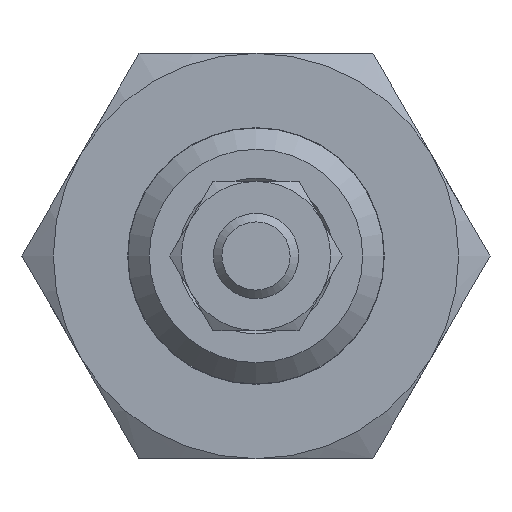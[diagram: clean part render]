
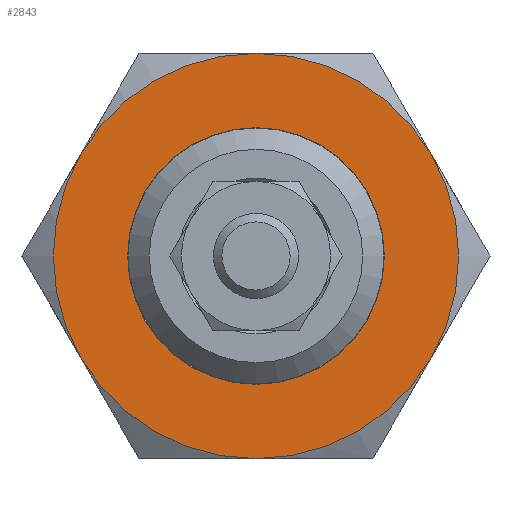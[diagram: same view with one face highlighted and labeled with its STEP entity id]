
A CAD part, front view. The second image highlights one B-rep face of the part: STEP entity #2843.
In plain terms, the highlighted planar face has unit normal (0, -1, 0) as drawn and (1, 0, 0) by its records, which use the part's own axes.
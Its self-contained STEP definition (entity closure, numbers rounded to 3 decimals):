
#155=PLANE('',#3118);
#317=CIRCLE('',#3101,9.5);
#318=CIRCLE('',#3103,9.5);
#319=CIRCLE('',#3105,9.5);
#320=CIRCLE('',#3107,9.5);
#321=CIRCLE('',#3109,9.5);
#322=CIRCLE('',#3111,9.5);
#323=CIRCLE('',#3119,6.016);
#697=ORIENTED_EDGE('',*,*,#983,.T.);
#698=ORIENTED_EDGE('',*,*,#981,.T.);
#699=ORIENTED_EDGE('',*,*,#978,.T.);
#700=ORIENTED_EDGE('',*,*,#977,.T.);
#701=ORIENTED_EDGE('',*,*,#979,.T.);
#702=ORIENTED_EDGE('',*,*,#980,.T.);
#703=ORIENTED_EDGE('',*,*,#982,.T.);
#977=EDGE_CURVE('',#1164,#1171,#317,.T.);
#978=EDGE_CURVE('',#1161,#1164,#318,.T.);
#979=EDGE_CURVE('',#1171,#1169,#319,.T.);
#980=EDGE_CURVE('',#1169,#1166,#320,.T.);
#981=EDGE_CURVE('',#1156,#1161,#321,.T.);
#982=EDGE_CURVE('',#1166,#1156,#322,.T.);
#983=EDGE_CURVE('',#1172,#1172,#323,.F.);
#1156=VERTEX_POINT('',#4178);
#1161=VERTEX_POINT('',#4198);
#1164=VERTEX_POINT('',#4215);
#1166=VERTEX_POINT('',#4233);
#1169=VERTEX_POINT('',#4250);
#1171=VERTEX_POINT('',#4266);
#1172=VERTEX_POINT('',#4290);
#1485=EDGE_LOOP('',(#697));
#1486=EDGE_LOOP('',(#698,#699,#700,#701,#702,#703));
#1704=FACE_BOUND('',#1485,.T.);
#1705=FACE_BOUND('',#1486,.T.);
#2843=ADVANCED_FACE('',(#1704,#1705),#155,.T.);
#3101=AXIS2_PLACEMENT_3D('',#4271,#3620,#3621);
#3103=AXIS2_PLACEMENT_3D('',#4273,#3624,#3625);
#3105=AXIS2_PLACEMENT_3D('',#4275,#3628,#3629);
#3107=AXIS2_PLACEMENT_3D('',#4277,#3632,#3633);
#3109=AXIS2_PLACEMENT_3D('',#4279,#3636,#3637);
#3111=AXIS2_PLACEMENT_3D('',#4281,#3640,#3641);
#3118=AXIS2_PLACEMENT_3D('',#4288,#3654,#3655);
#3119=AXIS2_PLACEMENT_3D('',#4289,#3656,#3657);
#3620=DIRECTION('',(1.,0.,0.));
#3621=DIRECTION('',(0.,1.,0.));
#3624=DIRECTION('',(1.,0.,0.));
#3625=DIRECTION('',(0.,1.,0.));
#3628=DIRECTION('',(1.,0.,0.));
#3629=DIRECTION('',(0.,1.,0.));
#3632=DIRECTION('',(1.,0.,0.));
#3633=DIRECTION('',(0.,1.,0.));
#3636=DIRECTION('',(1.,0.,0.));
#3637=DIRECTION('',(0.,1.,0.));
#3640=DIRECTION('',(1.,0.,0.));
#3641=DIRECTION('',(0.,1.,0.));
#3654=DIRECTION('',(1.,0.,0.));
#3655=DIRECTION('',(0.,0.,-1.));
#3656=DIRECTION('',(1.,0.,0.));
#3657=DIRECTION('',(0.,0.,-1.));
#4178=CARTESIAN_POINT('',(7.,-8.227,-4.75));
#4198=CARTESIAN_POINT('',(7.,0.,-9.5));
#4215=CARTESIAN_POINT('',(7.,8.227,-4.75));
#4233=CARTESIAN_POINT('',(7.,-8.227,4.75));
#4250=CARTESIAN_POINT('',(7.,0.,9.5));
#4266=CARTESIAN_POINT('',(7.,8.227,4.75));
#4271=CARTESIAN_POINT('',(7.,0.,0.));
#4273=CARTESIAN_POINT('',(7.,0.,0.));
#4275=CARTESIAN_POINT('',(7.,0.,0.));
#4277=CARTESIAN_POINT('',(7.,0.,0.));
#4279=CARTESIAN_POINT('',(7.,0.,0.));
#4281=CARTESIAN_POINT('',(7.,0.,0.));
#4288=CARTESIAN_POINT('',(7.,0.,0.));
#4289=CARTESIAN_POINT('',(7.,0.,0.));
#4290=CARTESIAN_POINT('',(7.,0.,-6.016));
